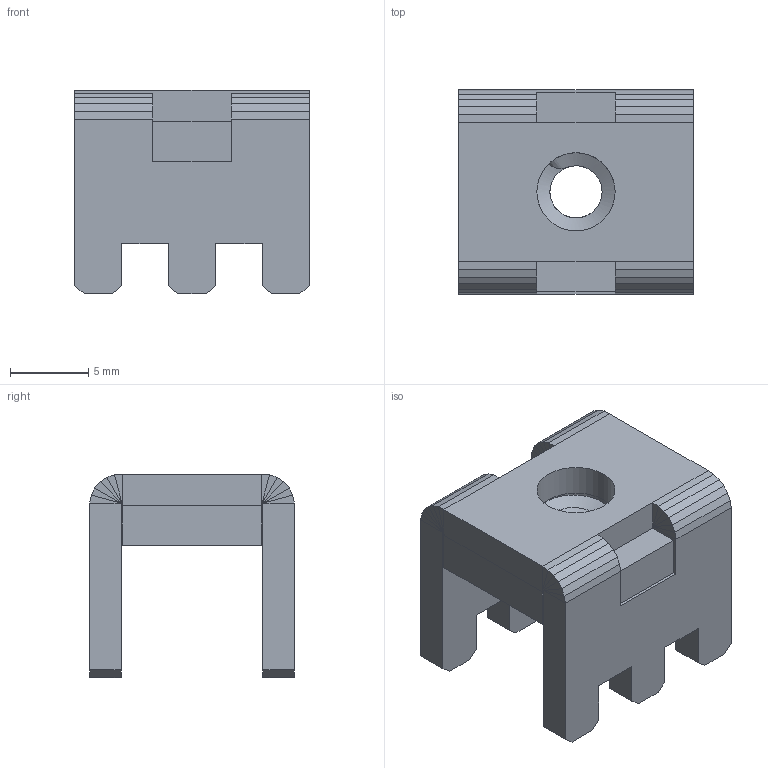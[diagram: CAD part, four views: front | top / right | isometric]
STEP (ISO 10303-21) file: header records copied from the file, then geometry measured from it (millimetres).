
FILE_DESCRIPTION(('FreeCAD Model'),'2;1');
FILE_NAME('Open CASCADE Shape Model','2026-07-27T22:31:40',('FreeCAD'),( 'FreeCAD'),'Open CASCADE STEP processor 7.9','FreeCAD','Unknown');
FILE_SCHEMA(('AUTOMOTIVE_DESIGN { 1 0 10303 214 1 1 1 1 }'));
Length unit declared in the file: millimetre
Products named in the file (1): Open CASCADE STEP translator 7.9 1
Bounding box: 14.99 x 13.08 x 13 mm (x, y, z)
Volume: 1184.4 mm3; surface area: 2310.7 mm2
Topology: 29 solids, 29 shells, 218 faces, 486 edges, 318 vertices
Faces by surface type: plane 164, bspline 52, cylinder 2
Full cylindrical faces by diameter (mm): 5 x2
Entity records: 6314 total; most frequent: CARTESIAN_POINT 1775, ORIENTED_EDGE 956, DIRECTION 656, EDGE_CURVE 478, VERTEX_POINT 318, LINE 314, VECTOR 314, FACE_BOUND 222
